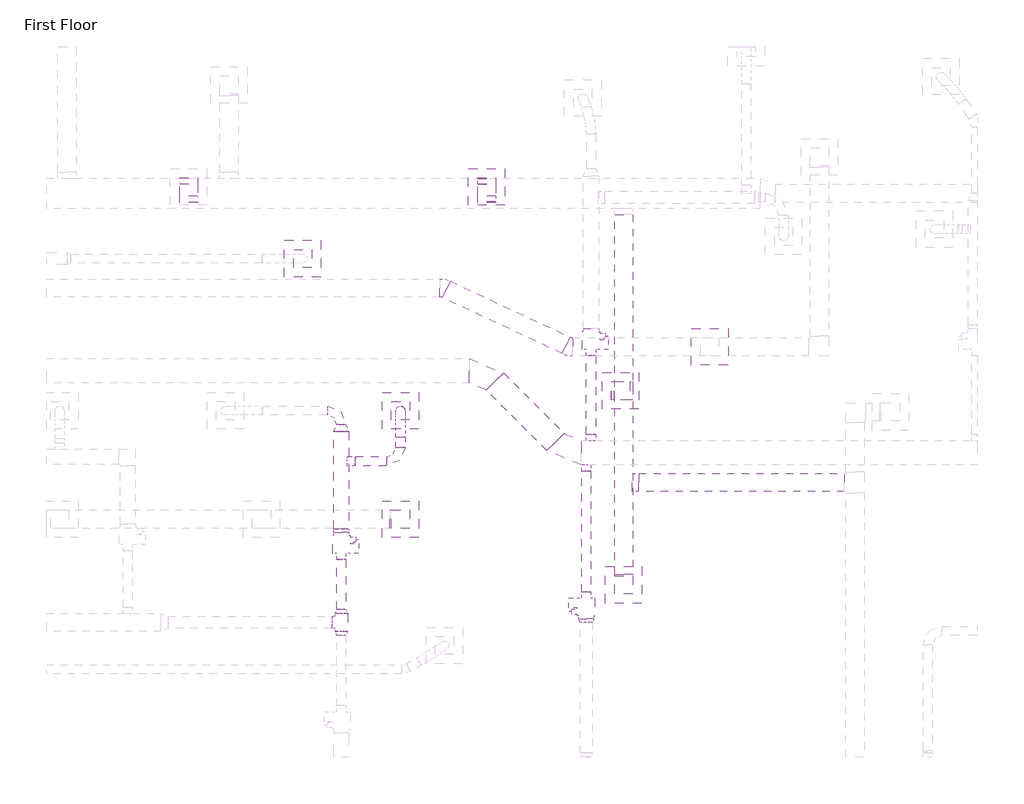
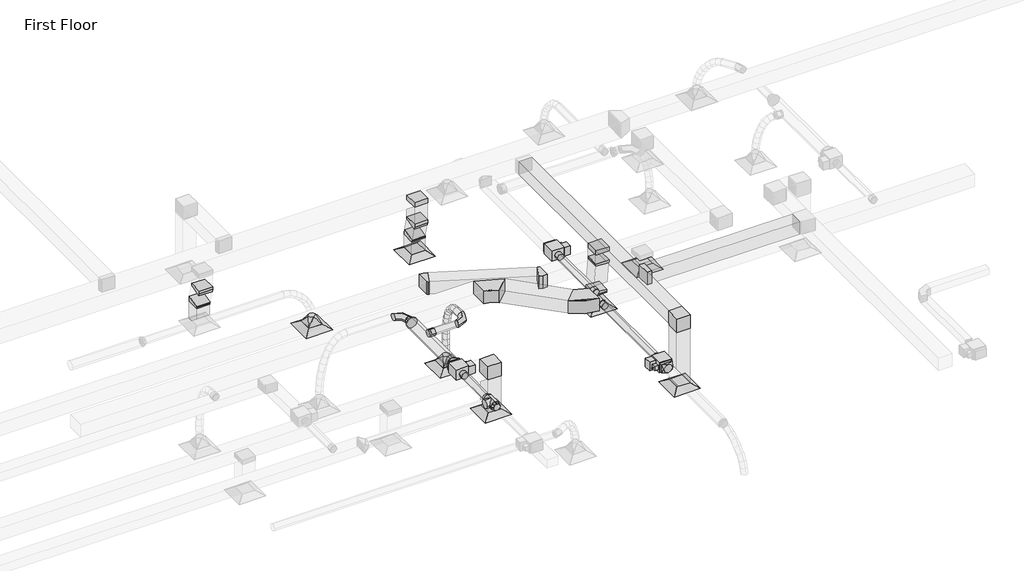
# One storey, part 51 of 61: 29 duct fittings, 20 duct segments, 7 air terminals, 3 proxies.
"""IFC4 building model written with IfcOpenShell, lengths in millimetres."""

from ifc_helpers import new_model, si_unit, point, frame, frame_2d, origin, place, context, project, spatial, polyline, circle_curve, ellipse_curve, trimmed, segment, composite_curve, outline, extrude, transform, mapped, element, save
from ifc_brep_helpers import plane_surface, cylinder_surface, advanced_brep
from components import m_exhaust_grill_er_600_x_600_face_300_x_300_connection_ff221211, m_vav_unit_single_duct_150_mm_ffdab17b, m_rectangular_elbow_mitered_standard_8eee5933, m_rectangular_elbow_mitered_standard_a5cf8a1a, m_rectangular_elbow_mitered_standard_8b9f0058, m_rectangular_elbow_mitered_standard_af8b91c0, m_rectangular_elbow_mitered_standard_bb41a724, m_rectangular_elbow_radius_1_5_w_52539924, m_rectangular_takeoff_standard_c00386d1, m_rectangular_takeoff_standard_b44bfa45, m_rectangular_transition_angle_45_degree_f75a56a8, m_rectangular_to_round_transition_angle_45_degree_8f201c83, m_rectangular_to_round_transition_angle_45_degree_9bcfcd89, m_rectangular_to_round_transition_angle_45_degree_06170b8a, m_round_elbow_1_5_d_2e586196, m_round_takeoff_standard_f2a1d319, m_round_takeoff_standard_f11fae56, m_round_takeoff_standard_af322dea, m_round_tee_standard_d0ec91cd, m_round_transition_angle_45_degree_3fc7b733, m_round_transition_angle_45_degree_6d7b59ce, m_round_transition_angle_45_degree_7615eb52

model = new_model("IFC4")

# Units and contexts
model_context = context("Model", 3, world=origin())
ifc_project = project(units=[si_unit("LENGTHUNIT", "METRE", prefix="MILLI")], contexts=[model_context])

# Site, building, storey
site = spatial("IfcSite", under=ifc_project)
building = spatial("IfcBuilding", under=site)
storey = spatial("IfcBuildingStorey", under=building, Name="First Floor", Elevation=0.0)

# Air terminals
placement = place(None, origin())
m_exhaust_grill_er_600_x_600_face_300_x_300_connection_shape = m_exhaust_grill_er_600_x_600_face_300_x_300_connection_ff221211(model_context)
element("IfcAirTerminal", 1, ObjectType="M_Exhaust Grill : ER-600 x 600 Face 300 x 300 Connection", at=placement, inside=storey, context=model_context, shape_type="MappedRepresentation", body=[
    mapped(m_exhaust_grill_er_600_x_600_face_300_x_300_connection_shape, transform((-17218.5108893, 44694.9781212, 2680.0), x_axis=(1.0, 0.0, 0.0), y_axis=(0.0, 1.0, 0.0), z_axis=(0.0, 0.0, 1.0))),
])
element("IfcAirTerminal", 2, ObjectType="M_Return Register : RR-600 x 600 Face 300 x 300 Connection", at=placement, inside=storey, context=model_context, shape_type="MappedRepresentation", body=[
    mapped(m_exhaust_grill_er_600_x_600_face_300_x_300_connection_shape, transform((-18678.7691949, 43971.972419, 2680.0), x_axis=(1.0, 0.0, 0.0), y_axis=(0.0, 1.0, 0.0), z_axis=(0.0, 0.0, 1.0))),
])
element("IfcAirTerminal", 3, ObjectType="M_Return Register : RR-600 x 600 Face 300 x 300 Connection", at=placement, inside=storey, context=model_context, shape_type="MappedRepresentation", body=[
    mapped(m_exhaust_grill_er_600_x_600_face_300_x_300_connection_shape, transform((-18629.3987258, 40789.3240972, 2680.0), x_axis=(1.0, 0.0, 0.0), y_axis=(0.0, 1.0, 0.0), z_axis=(0.0, 0.0, 1.0))),
])
element("IfcAirTerminal", 4, ObjectType="M_Return Register : RR-600 x 600 Face 300 x 300 Connection", at=placement, inside=storey, context=model_context, shape_type="MappedRepresentation", body=[
    mapped(m_exhaust_grill_er_600_x_600_face_300_x_300_connection_shape, transform((-20874.4935524, 47318.7926945, 2680.0), x_axis=(1.0, 0.0, 0.0), y_axis=(0.0, 1.0, 0.0), z_axis=(0.0, 0.0, 1.0))),
])
element("IfcAirTerminal", 5, ObjectType="M_Return Register : RR-600 x 600 Face 300 x 300 Connection", at=placement, inside=storey, context=model_context, shape_type="MappedRepresentation", body=[
    mapped(m_exhaust_grill_er_600_x_600_face_300_x_300_connection_shape, transform((-22286.4466889, 41867.8999759, 2680.0), x_axis=(1.0, 0.0, 0.0), y_axis=(0.0, 1.0, 0.0), z_axis=(0.0, 0.0, 1.0))),
])
element("IfcAirTerminal", 6, ObjectType="M_Supply Diffuser : SD-600 x 600 Face 300 x 300 Connection", at=placement, inside=storey, context=model_context, shape_type="MappedRepresentation", body=[
    mapped(m_exhaust_grill_er_600_x_600_face_300_x_300_connection_shape, transform((-23890.7706619, 46140.3464892, 2680.0), x_axis=(1.0, 0.0, 0.0), y_axis=(0.0, 1.0, 0.0), z_axis=(0.0, 0.0, 1.0))),
])
element("IfcAirTerminal", 7, ObjectType="M_Supply Diffuser : SD-600 x 600 Face 300 x 300 Connection", at=placement, inside=storey, context=model_context, shape_type="MappedRepresentation", body=[
    mapped(m_exhaust_grill_er_600_x_600_face_300_x_300_connection_shape, transform((-22286.4466889, 43646.5953777, 2680.0), x_axis=(1.0, 0.0, 0.0), y_axis=(0.0, 1.0, 0.0), z_axis=(0.0, 0.0, 1.0))),
])

# Proxies
m_vav_unit_single_duct_150_mm_shape = m_vav_unit_single_duct_150_mm_ffdab17b(model_context)
element("IfcBuildingElementProxy", 8, Name="M_VAV Unit - Single Duct : 150 mm", ObjectType="M_VAV Unit - Single Duct : 150 mm", at=placement, inside=storey, context=model_context, shape_type="MappedRepresentation", body=[
    mapped(m_vav_unit_single_duct_150_mm_shape, transform((-19163.3092474, 44649.2581212, 3550.15), x_axis=(0.0, 1.0000000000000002, 0.0), y_axis=(-1.0000000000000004, 0.0, 0.0), z_axis=(0.0, 0.0, 1.0000000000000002))),
])
element("IfcBuildingElementProxy", 9, Name="M_VAV Unit - Single Duct : 150 mm", ObjectType="M_VAV Unit - Single Duct : 150 mm", at=placement, inside=storey, context=model_context, shape_type="MappedRepresentation", body=[
    mapped(m_vav_unit_single_duct_150_mm_shape, transform((-19243.7025552, 40574.9003018, 3550.1), x_axis=(0.0, -1.0, 0.0), y_axis=(1.0, 0.0, 0.0), z_axis=(0.0, 0.0, 1.0))),
])
element("IfcBuildingElementProxy", 10, Name="M_VAV Unit - Single Duct : 150 mm", ObjectType="M_VAV Unit - Single Duct : 150 mm", at=placement, inside=storey, context=model_context, shape_type="MappedRepresentation", body=[
    mapped(m_vav_unit_single_duct_150_mm_shape, transform((-23256.5951693, 41306.5893825, 4159.975), x_axis=(0.0, 1.0000000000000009, 0.0), y_axis=(-1.0000000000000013, 0.0, 0.0), z_axis=(0.0, 0.0, 1.0000000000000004))),
])

# Duct fittings
m_rectangular_elbow_mitered_standard_shape = m_rectangular_elbow_mitered_standard_8eee5933(model_context)
element("IfcDuctFitting", 11, ObjectType="M_Rectangular Elbow - Mitered : Standard", at=placement, inside=storey, context=model_context, shape_type="MappedRepresentation", body=[
    mapped(m_rectangular_elbow_mitered_standard_shape, transform((-18629.3987258, 40789.3240972, 4259.5), x_axis=(0.0, 0.0, 1.0), y_axis=(0.0, 1.0, 0.0), z_axis=(-1.0, 0.0, 0.0))),
])
element("IfcDuctFitting", 12, ObjectType="M_Rectangular Elbow - Mitered : Standard", at=placement, inside=storey, context=model_context, shape_type="MappedRepresentation", body=[
    mapped(m_rectangular_elbow_mitered_standard_shape, transform((-22286.4466889, 41867.8999759, 3750.0), x_axis=(0.0, 0.0, 1.0), y_axis=(-1.0, 0.0, 0.0), z_axis=(0.0, -1.0, 0.0))),
])
m_rectangular_elbow_mitered_standard_2_shape = m_rectangular_elbow_mitered_standard_a5cf8a1a(model_context)
element("IfcDuctFitting", 13, ObjectType="M_Rectangular Elbow - Mitered : Standard", at=placement, inside=storey, context=model_context, shape_type="MappedRepresentation", body=[
    mapped(m_rectangular_elbow_mitered_standard_2_shape, transform((-18629.3987258, 43971.898194, 3769.5), x_axis=(0.0, 0.0, -1.0), y_axis=(-1.0, 0.0, 0.0), z_axis=(0.0, 1.0, 0.0))),
])
m_rectangular_elbow_mitered_standard_3_shape = m_rectangular_elbow_mitered_standard_8b9f0058(model_context)
element("IfcDuctFitting", 14, ObjectType="M_Rectangular Elbow - Mitered : Standard", at=placement, inside=storey, context=model_context, shape_type="MappedRepresentation", body=[
    mapped(m_rectangular_elbow_mitered_standard_3_shape, transform((-18681.1221366, 43971.898194, 3093.9011628), x_axis=(-0.07633596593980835, 0.0, -0.9970821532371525), y_axis=(0.9970773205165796, 0.0031134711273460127, -0.07633559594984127), z_axis=(0.003104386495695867, -0.9999951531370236, -0.00023766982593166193))),
])
m_rectangular_elbow_mitered_standard_4_shape = m_rectangular_elbow_mitered_standard_af8b91c0(model_context)
element("IfcDuctFitting", 15, ObjectType="M_Rectangular Elbow - Mitered : Standard", at=placement, inside=storey, context=model_context, shape_type="MappedRepresentation", body=[
    mapped(m_rectangular_elbow_mitered_standard_4_shape, transform((-20874.4935524, 47318.7926945, 3128.6517529), x_axis=(0.0, 0.258819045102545, -0.9659258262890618), y_axis=(0.0, -0.9659258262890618, -0.258819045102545), z_axis=(-1.0, 0.0, 0.0))),
])
element("IfcDuctFitting", 16, ObjectType="M_Rectangular Elbow - Mitered : Standard", at=placement, inside=storey, context=model_context, shape_type="MappedRepresentation", body=[
    mapped(m_rectangular_elbow_mitered_standard_4_shape, transform((-20874.4935524, 47211.3321421, 3529.6999944), x_axis=(0.0, -0.2588190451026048, 0.9659258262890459), y_axis=(0.0, 0.9659258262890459, 0.2588190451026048), z_axis=(-1.0, 0.0, 0.0))),
])
element("IfcDuctFitting", 17, ObjectType="M_Rectangular Elbow - Mitered : Standard", at=placement, inside=storey, context=model_context, shape_type="MappedRepresentation", body=[
    mapped(m_rectangular_elbow_mitered_standard_4_shape, transform((-25759.2936376, 47211.3321421, 3639.5), x_axis=(0.0, 0.0, -1.0), y_axis=(0.0, 1.0, 0.0), z_axis=(1.0, 0.0, 0.0))),
])
element("IfcDuctFitting", 18, ObjectType="M_Rectangular Elbow - Mitered : Standard", at=placement, inside=storey, context=model_context, shape_type="MappedRepresentation", body=[
    mapped(m_rectangular_elbow_mitered_standard_4_shape, transform((-25759.2936376, 47318.7926945, 3238.4517586), x_axis=(0.0, 0.25881904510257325, -0.9659258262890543), y_axis=(0.0, -0.9659258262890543, -0.25881904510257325), z_axis=(-1.0, 0.0, 0.0))),
])
m_rectangular_elbow_mitered_standard_5_shape = m_rectangular_elbow_mitered_standard_bb41a724(model_context)
element("IfcDuctFitting", 19, ObjectType="M_Rectangular Elbow - Mitered : Standard", at=placement, inside=storey, context=model_context, shape_type="MappedRepresentation", body=[
    mapped(m_rectangular_elbow_mitered_standard_5_shape, transform((-19520.3756959, 44694.9781212, 3200.0), x_axis=(0.9063077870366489, -0.42261826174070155, 0.0), y_axis=(0.4226182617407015, 0.9063077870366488, 0.0), z_axis=(0.0, 0.0, 0.9999999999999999))),
])
element("IfcDuctFitting", 20, ObjectType="M_Rectangular Elbow - Mitered : Standard", at=placement, inside=storey, context=model_context, shape_type="MappedRepresentation", body=[
    mapped(m_rectangular_elbow_mitered_standard_5_shape, transform((-21586.3948532, 45658.3786762, 3200.0), x_axis=(-0.9063077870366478, 0.4226182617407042, 0.0), y_axis=(-0.4226182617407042, -0.9063077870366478, 0.0), z_axis=(0.0, 0.0, 1.0))),
])
m_rectangular_elbow_radius_1_5_w_shape = m_rectangular_elbow_radius_1_5_w_52539924(model_context)
element("IfcDuctFitting", 21, ObjectType="M_Rectangular Elbow - Radius : 1.5 W", at=placement, inside=storey, context=model_context, shape_type="MappedRepresentation", body=[
    mapped(m_rectangular_elbow_radius_1_5_w_shape, transform((-19570.6141992, 42956.1720978, 3659.6), x_axis=(0.7071067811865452, -0.7071067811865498, 0.0), y_axis=(0.7071067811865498, 0.7071067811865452, 0.0), z_axis=(0.0, 0.0, 1.0))),
])
element("IfcDuctFitting", 22, ObjectType="M_Rectangular Elbow - Radius : 1.5 W", at=placement, inside=storey, context=model_context, shape_type="MappedRepresentation", body=[
    mapped(m_rectangular_elbow_radius_1_5_w_shape, transform((-20914.1170835, 44299.674982, 3659.6), x_axis=(-0.707106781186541, 0.7071067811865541, 0.0), y_axis=(-0.7071067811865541, -0.707106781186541, 0.0), z_axis=(0.0, 0.0, 1.0))),
])
m_rectangular_takeoff_standard_shape = m_rectangular_takeoff_standard_c00386d1(model_context)
element("IfcDuctFitting", 23, ObjectType="M_Rectangular Takeoff : Standard", at=placement, inside=storey, context=model_context, shape_type="MappedRepresentation", body=[
    mapped(m_rectangular_takeoff_standard_shape, transform((-20874.4935524, 47211.3321421, 4084.5), x_axis=(0.0, 0.0, -1.0), y_axis=(-1.0, 0.0, 0.0), z_axis=(0.0, 1.0, 0.0))),
])
m_rectangular_takeoff_standard_2_shape = m_rectangular_takeoff_standard_b44bfa45(model_context)
element("IfcDuctFitting", 24, ObjectType="M_Rectangular Takeoff : Standard", at=placement, inside=storey, context=model_context, shape_type="MappedRepresentation", body=[
    mapped(m_rectangular_takeoff_standard_2_shape, transform((-18629.3987258, 43971.898194, 4109.5), x_axis=(0.0, 0.0, -1.0), y_axis=(0.0, -1.0, 0.0), z_axis=(-1.0, 0.0, 0.0))),
])
element("IfcDuctFitting", 25, ObjectType="M_Rectangular Takeoff : Standard", at=placement, inside=storey, context=model_context, shape_type="MappedRepresentation", body=[
    mapped(m_rectangular_takeoff_standard_2_shape, transform((-18479.3987258, 42467.9736837, 4259.5), x_axis=(1.0, 0.0, 0.0), y_axis=(0.0, -1.0, 0.0), z_axis=(0.0, 0.0, -1.0))),
])
m_rectangular_transition_angle_45_degree_shape = m_rectangular_transition_angle_45_degree_f75a56a8(model_context)
element("IfcDuctFitting", 26, ObjectType="M_Rectangular Transition - Angle : 45 Degree", at=placement, inside=storey, context=model_context, shape_type="MappedRepresentation", body=[
    mapped(m_rectangular_transition_angle_45_degree_shape, transform((-18681.1221366, 43971.9054985, 3063.1675737), x_axis=(0.0, 0.00023767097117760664, -0.9999999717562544), y_axis=(-0.0031043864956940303, 0.9999951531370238, 0.00023766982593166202), z_axis=(0.9999951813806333, 0.0031043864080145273, 7.37822553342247e-07))),
])
m_rectangular_to_round_transition_angle_45_degree_shape = m_rectangular_to_round_transition_angle_45_degree_8f201c83(model_context)
element("IfcDuctFitting", 27, ObjectType="M_Rectangular to Round Transition - Angle : 45 Degree", at=placement, inside=storey, context=model_context, shape_type="MappedRepresentation", body=[
    mapped(m_rectangular_to_round_transition_angle_45_degree_shape, transform((-23890.7706619, 46140.3464892, 2781.6), x_axis=(0.0, 0.0, 1.0), y_axis=(1.0, 0.0, 0.0), z_axis=(0.0, 1.0, 0.0))),
])
element("IfcDuctFitting", 28, ObjectType="M_Rectangular to Round Transition - Angle : 45 Degree", at=placement, inside=storey, context=model_context, shape_type="MappedRepresentation", body=[
    mapped(m_rectangular_to_round_transition_angle_45_degree_shape, transform((-22286.4466889, 43646.5953777, 2781.6), x_axis=(0.0, 0.0, 1.0), y_axis=(1.0, 0.0, 0.0), z_axis=(0.0, 1.0, 0.0))),
])
m_rectangular_to_round_transition_angle_45_degree_2_shape = m_rectangular_to_round_transition_angle_45_degree_9bcfcd89(model_context)
element("IfcDuctFitting", 29, ObjectType="M_Rectangular to Round Transition - Angle : 45 Degree", at=placement, inside=storey, context=model_context, shape_type="MappedRepresentation", body=[
    mapped(m_rectangular_to_round_transition_angle_45_degree_2_shape, transform((-19243.7025552, 40232.1003018, 3669.15), x_axis=(0.0, -1.0, 0.0), y_axis=(1.0, 0.0, 0.0), z_axis=(0.0, 0.0, 1.0))),
])
m_rectangular_to_round_transition_angle_45_degree_3_shape = m_rectangular_to_round_transition_angle_45_degree_06170b8a(model_context)
element("IfcDuctFitting", 30, ObjectType="M_Rectangular to Round Transition - Angle : 45 Degree", at=placement, inside=storey, context=model_context, shape_type="MappedRepresentation", body=[
    mapped(m_rectangular_to_round_transition_angle_45_degree_3_shape, transform((-23256.5951693, 41649.3893825, 4279.025), x_axis=(0.0, 1.0, 0.0), y_axis=(-1.0, 0.0, 0.0), z_axis=(0.0, 0.0, 1.0))),
])
m_round_elbow_1_5_d_shape = m_round_elbow_1_5_d_2e586196(model_context)
element("IfcDuctFitting", 31, ObjectType="M_Round Elbow : 1.5 D", at=placement, inside=storey, context=model_context, shape_type="MappedRepresentation", body=[
    mapped(m_round_elbow_1_5_d_shape, transform((-23256.5951693, 43646.5953777, 4279.0), x_axis=(0.0, 0.9999999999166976, -1.2907551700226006e-05), y_axis=(-1.0000000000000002, 0.0, 0.0), z_axis=(0.0, 1.2907551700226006e-05, 0.9999999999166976))),
])
element("IfcDuctFitting", 32, ObjectType="M_Round Elbow : 1.5 D", at=placement, inside=storey, context=model_context, shape_type="MappedRepresentation", body=[
    mapped(m_round_elbow_1_5_d_shape, transform((-22286.4466889, 42817.6349986, 4279.0), x_axis=(1.0, 0.0, 0.0), y_axis=(0.0, 1.0, 0.0), z_axis=(0.0, 0.0, 1.0))),
])
m_round_takeoff_standard_shape = m_round_takeoff_standard_f2a1d319(model_context)
element("IfcDuctFitting", 33, ObjectType="M_Round Takeoff : Standard", at=placement, inside=storey, context=model_context, shape_type="MappedRepresentation", body=[
    mapped(m_round_takeoff_standard_shape, transform((-19242.8525552, 42756.1720978, 3659.6021933), x_axis=(0.0, -0.9999999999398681, 1.0966490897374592e-05), y_axis=(-1.0000000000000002, 0.0, 0.0), z_axis=(0.0, -1.0966490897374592e-05, -0.9999999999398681))),
])
m_round_takeoff_standard_2_shape = m_round_takeoff_standard_f11fae56(model_context)
element("IfcDuctFitting", 34, ObjectType="M_Round Takeoff : Standard", at=placement, inside=storey, context=model_context, shape_type="MappedRepresentation", body=[
    mapped(m_round_takeoff_standard_2_shape, transform((-19164.1592474, 43156.1720978, 3659.6031417), x_axis=(0.0, 0.9999999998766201, 1.5708589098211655e-05), y_axis=(1.0, 0.0, 0.0), z_axis=(0.0, 1.5708589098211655e-05, -0.9999999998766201))),
])
m_round_takeoff_standard_3_shape = m_round_takeoff_standard_af322dea(model_context)
element("IfcDuctFitting", 35, ObjectType="M_Round Takeoff : Standard", at=placement, inside=storey, context=model_context, shape_type="MappedRepresentation", body=[
    mapped(m_round_takeoff_standard_3_shape, transform((-23131.5951697, 42817.6349986, 4279.0), x_axis=(1.0, 0.0, 0.0), y_axis=(0.0, -1.0, 0.0), z_axis=(0.0, 0.0, -1.0))),
])
m_round_tee_standard_shape = m_round_tee_standard_d0ec91cd(model_context)
element("IfcDuctFitting", 36, ObjectType="M_Round Tee : Standard", at=placement, inside=storey, context=model_context, shape_type="MappedRepresentation", body=[
    mapped(m_round_tee_standard_shape, transform((-23255.7451693, 40172.9559427, 4269.5), x_axis=(0.0, -1.0, 0.0), y_axis=(1.0, 0.0, 0.0), z_axis=(0.0, 0.0, 1.0))),
])
m_round_transition_angle_45_degree_shape = m_round_transition_angle_45_degree_3fc7b733(model_context)
element("IfcDuctFitting", 37, ObjectType="M_Round Transition - Angle : 45 Degree", at=placement, inside=storey, context=model_context, shape_type="MappedRepresentation", body=[
    mapped(m_round_transition_angle_45_degree_shape, transform((-23255.8700404, 40383.3111526, 4269.5), x_axis=(0.002068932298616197, -0.9999978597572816, 0.0), y_axis=(0.9999978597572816, 0.002068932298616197, 0.0), z_axis=(0.0, 0.0, 1.0))),
])
m_round_transition_angle_45_degree_2_shape = m_round_transition_angle_45_degree_6d7b59ce(model_context)
element("IfcDuctFitting", 38, ObjectType="M_Round Transition - Angle : 45 Degree", at=placement, inside=storey, context=model_context, shape_type="MappedRepresentation", body=[
    mapped(m_round_transition_angle_45_degree_2_shape, transform((-23255.7451693, 40022.9559427, 4269.5), x_axis=(0.0, -1.0, 0.0), y_axis=(1.0, 0.0, 0.0), z_axis=(0.0, 0.0, 1.0))),
])
m_round_transition_angle_45_degree_3_shape = m_round_transition_angle_45_degree_7615eb52(model_context)
element("IfcDuctFitting", 39, ObjectType="M_Round Transition - Angle : 45 Degree", at=placement, inside=storey, context=model_context, shape_type="MappedRepresentation", body=[
    mapped(m_round_transition_angle_45_degree_3_shape, transform((-23256.5951693, 43300.8846996, 4279.0044623), x_axis=(0.0, 0.9999999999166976, -1.2907551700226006e-05), y_axis=(-1.0000000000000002, 0.0, 0.0), z_axis=(0.0, 1.2907551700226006e-05, 0.9999999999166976))),
])

# Duct segments
element("IfcDuctSegment", 40, ObjectType="Flex - Round", at=placement, inside=storey, context=model_context, shape_type="AdvancedBrep", body=[
    advanced_brep(
    [(-22361.4466889, 43217.6349986, 4279.0), (-22286.4466889, 43205.6313547, 4204.9668147), (-22211.4466889, 43217.6349986, 4279.0), (-22286.4466889, 43229.6386425, 4353.0331853), (-22361.4466889, 43323.0197593, 4261.9130526), (-22286.4466889, 43297.9832635, 4189.9929968), (-22211.4466889, 43323.0197593, 4261.9130526), (-22286.4466889, 43348.0562551, 4333.8331084), (-22361.4466889, 43646.5953777, 2962.6660172), (-22286.4466889, 43721.595032, 2962.4383222), (-22211.4466889, 43646.5953777, 2962.6660172), (-22286.4466889, 43571.5957233, 2962.8937122), (-22361.4466889, 43409.648797, 4213.5415702), (-22286.4466889, 43362.6887462, 4153.8630778), (-22211.4466889, 43409.648797, 4213.5415702), (-22286.4466889, 43456.6088478, 4273.2200626), (-22361.4466889, 43479.3503888, 4138.2195922), (-22286.4466889, 43418.211135, 4093.8636424), (-22211.4466889, 43479.3503888, 4138.2195922), (-22286.4466889, 43540.4896425, 4182.5755419), (-22361.4466889, 43533.9528118, 4040.2811582), (-22286.4466889, 43465.3905629, 4009.2395722), (-22211.4466889, 43533.9528118, 4040.2811582), (-22286.4466889, 43602.5150606, 4071.3227443), (-22361.4466889, 43575.2843432, 3924.0603078), (-22286.4466889, 43503.1609732, 3903.0323001), (-22211.4466889, 43575.2843432, 3924.0603078), (-22286.4466889, 43647.4077132, 3945.0883155), (-22361.4466889, 43605.1732601, 3793.8910805), (-22286.4466889, 43531.3897589, 3780.0931104), (-22211.4466889, 43605.1732601, 3793.8910805), (-22286.4466889, 43678.9567613, 3807.6890507), (-22361.4466889, 43625.4478397, 3654.1075159), (-22286.4466889, 43550.9113569, 3645.500995), (-22211.4466889, 43625.4478397, 3654.1075159), (-22286.4466889, 43699.9843224, 3662.7140369), (-22361.4466889, 43637.9363591, 3509.0436536), (-22286.4466889, 43563.0802806, 3504.1494851), (-22211.4466889, 43637.9363591, 3509.0436536), (-22286.4466889, 43712.7924375, 3513.937822), (-22361.4466889, 43644.4670954, 3363.0335329), (-22286.4466889, 43569.4953135, 3360.7261903), (-22211.4466889, 43644.4670954, 3363.0335329), (-22286.4466889, 43719.4388774, 3365.3408756), (-22361.4466889, 43646.8683259, 3220.4111936), (-22286.4466889, 43571.8687939, 3219.752081), (-22211.4466889, 43646.8683259, 3220.4111936), (-22286.4466889, 43721.8678579, 3221.0703063), (-22361.4466889, 43646.9683276, 3085.5106752), (-22286.4466889, 43571.9682432, 3085.5967243), (-22211.4466889, 43646.9683276, 3085.5106752), (-22286.4466889, 43721.968412, 3085.4246261)],
    [
        (0, 1, circle_curve(frame((-22286.4466889, 43217.6349986, 4279.0), z_axis=(0.0, -0.987109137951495, 0.1600485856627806), x_axis=(-1.0, 0.0, 0.0)), 75.0)),
        (1, 2, circle_curve(frame((-22286.4466889, 43217.6349986, 4279.0), z_axis=(0.0, -0.987109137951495, 0.1600485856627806), x_axis=(-1.0, 0.0, 0.0)), 75.0)),
        (2, 3, circle_curve(frame((-22286.4466889, 43217.6349986, 4279.0), z_axis=(0.0, -0.987109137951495, 0.1600485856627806), x_axis=(-1.0, 0.0, 0.0)), 75.0)),
        (3, 0, circle_curve(frame((-22286.4466889, 43217.6349986, 4279.0), z_axis=(0.0, -0.987109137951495, 0.1600485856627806), x_axis=(-1.0, 0.0, 0.0)), 75.0)),
        (0, 4),
        (4, 5, ellipse_curve(frame((-22286.4466889, 43323.0197593, 4261.9130526), z_axis=(0.0, -0.9444119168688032, 0.32876455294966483), x_axis=(0.0, -0.32876455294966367, -0.9444119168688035)), 76.1532701, 75.0)),
        (5, 1),
        (5, 6, ellipse_curve(frame((-22286.4466889, 43323.0197593, 4261.9130526), z_axis=(0.0, -0.9444119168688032, 0.32876455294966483), x_axis=(0.0, -0.32876455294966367, -0.9444119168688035)), 76.1532701, 75.0)),
        (6, 2),
        (6, 7, ellipse_curve(frame((-22286.4466889, 43323.0197593, 4261.9130526), z_axis=(0.0, -0.9444119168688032, 0.32876455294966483), x_axis=(0.0, -0.32876455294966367, -0.9444119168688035)), 76.1532701, 75.0)),
        (7, 3),
        (7, 4, ellipse_curve(frame((-22286.4466889, 43323.0197593, 4261.9130526), z_axis=(0.0, -0.9444119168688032, 0.32876455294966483), x_axis=(0.0, -0.32876455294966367, -0.9444119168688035)), 76.1532701, 75.0)),
        (8, 9, circle_curve(frame((-22286.4466889, 43646.5953777, 2962.6660172), z_axis=(0.0, -0.003035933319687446, -0.9999953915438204), x_axis=(-1.0, 0.0, 0.0)), 75.0)),
        (9, 10, circle_curve(frame((-22286.4466889, 43646.5953777, 2962.6660172), z_axis=(0.0, -0.003035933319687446, -0.9999953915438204), x_axis=(-1.0, 0.0, 0.0)), 75.0)),
        (10, 11, circle_curve(frame((-22286.4466889, 43646.5953777, 2962.6660172), z_axis=(0.0, -0.003035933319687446, -0.9999953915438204), x_axis=(-1.0, 0.0, 0.0)), 75.0)),
        (11, 8, circle_curve(frame((-22286.4466889, 43646.5953777, 2962.6660172), z_axis=(0.0, -0.003035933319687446, -0.9999953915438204), x_axis=(-1.0, 0.0, 0.0)), 75.0)),
        (4, 12),
        (12, 13, ellipse_curve(frame((-22286.4466889, 43409.648797, 4213.5415702), z_axis=(0.0, -0.7858715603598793, 0.6183897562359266), x_axis=(0.0, -0.6183897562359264, -0.7858715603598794)), 75.9392443, 75.0)),
        (13, 5),
        (13, 14, ellipse_curve(frame((-22286.4466889, 43409.648797, 4213.5415702), z_axis=(0.0, -0.7858715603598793, 0.6183897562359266), x_axis=(0.0, -0.6183897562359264, -0.7858715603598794)), 75.9392443, 75.0)),
        (14, 6),
        (14, 15, ellipse_curve(frame((-22286.4466889, 43409.648797, 4213.5415702), z_axis=(0.0, -0.7858715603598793, 0.6183897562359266), x_axis=(0.0, -0.6183897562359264, -0.7858715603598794)), 75.9392443, 75.0)),
        (15, 7),
        (15, 12, ellipse_curve(frame((-22286.4466889, 43409.648797, 4213.5415702), z_axis=(0.0, -0.7858715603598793, 0.6183897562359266), x_axis=(0.0, -0.6183897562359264, -0.7858715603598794)), 75.9392443, 75.0)),
        (12, 16),
        (16, 17, ellipse_curve(frame((-22286.4466889, 43479.3503888, 4138.2195922), z_axis=(0.0, -0.5872277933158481, 0.8094217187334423), x_axis=(0.0, -0.809421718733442, -0.5872277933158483)), 75.5344863, 75.0)),
        (17, 13),
        (17, 18, ellipse_curve(frame((-22286.4466889, 43479.3503888, 4138.2195922), z_axis=(0.0, -0.5872277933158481, 0.8094217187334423), x_axis=(0.0, -0.809421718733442, -0.5872277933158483)), 75.5344863, 75.0)),
        (18, 14),
        (18, 19, ellipse_curve(frame((-22286.4466889, 43479.3503888, 4138.2195922), z_axis=(0.0, -0.5872277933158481, 0.8094217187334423), x_axis=(0.0, -0.809421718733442, -0.5872277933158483)), 75.5344863, 75.0)),
        (19, 15),
        (19, 16, ellipse_curve(frame((-22286.4466889, 43479.3503888, 4138.2195922), z_axis=(0.0, -0.5872277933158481, 0.8094217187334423), x_axis=(0.0, -0.809421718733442, -0.5872277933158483)), 75.5344863, 75.0)),
        (16, 20),
        (20, 21, ellipse_curve(frame((-22286.4466889, 43533.9528118, 4040.2811582), z_axis=(0.0, -0.4124472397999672, 0.9109814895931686), x_axis=(0.0, -0.9109814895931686, -0.4124472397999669)), 75.2619561, 75.0)),
        (21, 17),
        (21, 22, ellipse_curve(frame((-22286.4466889, 43533.9528118, 4040.2811582), z_axis=(0.0, -0.4124472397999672, 0.9109814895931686), x_axis=(0.0, -0.9109814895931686, -0.4124472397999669)), 75.2619561, 75.0)),
        (22, 18),
        (22, 23, ellipse_curve(frame((-22286.4466889, 43533.9528118, 4040.2811582), z_axis=(0.0, -0.4124472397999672, 0.9109814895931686), x_axis=(0.0, -0.9109814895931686, -0.4124472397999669)), 75.2619561, 75.0)),
        (23, 19),
        (23, 20, ellipse_curve(frame((-22286.4466889, 43533.9528118, 4040.2811582), z_axis=(0.0, -0.4124472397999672, 0.9109814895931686), x_axis=(0.0, -0.9109814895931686, -0.4124472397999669)), 75.2619561, 75.0)),
        (20, 24),
        (24, 25, ellipse_curve(frame((-22286.4466889, 43575.2843432, 3924.0603078), z_axis=(0.0, -0.2799021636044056, 0.9600285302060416), x_axis=(0.0, -0.9600285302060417, -0.2799021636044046)), 75.1262778, 75.0)),
        (25, 21),
        (25, 26, ellipse_curve(frame((-22286.4466889, 43575.2843432, 3924.0603078), z_axis=(0.0, -0.2799021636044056, 0.9600285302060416), x_axis=(0.0, -0.9600285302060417, -0.2799021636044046)), 75.1262778, 75.0)),
        (26, 22),
        (26, 27, ellipse_curve(frame((-22286.4466889, 43575.2843432, 3924.0603078), z_axis=(0.0, -0.2799021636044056, 0.9600285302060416), x_axis=(0.0, -0.9600285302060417, -0.2799021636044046)), 75.1262778, 75.0)),
        (27, 23),
        (27, 24, ellipse_curve(frame((-22286.4466889, 43575.2843432, 3924.0603078), z_axis=(0.0, -0.2799021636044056, 0.9600285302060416), x_axis=(0.0, -0.9600285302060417, -0.2799021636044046)), 75.1262778, 75.0)),
        (24, 28),
        (28, 29, ellipse_curve(frame((-22286.4466889, 43605.1732601, 3793.8910805), z_axis=(0.0, -0.18381958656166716, 0.9829599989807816), x_axis=(0.0, -0.9829599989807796, -0.18381958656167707)), 75.0625674, 75.0)),
        (29, 25),
        (29, 30, ellipse_curve(frame((-22286.4466889, 43605.1732601, 3793.8910805), z_axis=(0.0, -0.18381958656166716, 0.9829599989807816), x_axis=(0.0, -0.9829599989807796, -0.18381958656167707)), 75.0625674, 75.0)),
        (30, 26),
        (30, 31, ellipse_curve(frame((-22286.4466889, 43605.1732601, 3793.8910805), z_axis=(0.0, -0.18381958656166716, 0.9829599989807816), x_axis=(0.0, -0.9829599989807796, -0.18381958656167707)), 75.0625674, 75.0)),
        (31, 27),
        (31, 28, ellipse_curve(frame((-22286.4466889, 43605.1732601, 3793.8910805), z_axis=(0.0, -0.18381958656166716, 0.9829599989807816), x_axis=(0.0, -0.9829599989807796, -0.18381958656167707)), 75.0625674, 75.0)),
        (28, 32),
        (32, 33, ellipse_curve(frame((-22286.4466889, 43625.4478397, 3654.1075159), z_axis=(0.0, -0.11470509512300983, 0.9933995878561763), x_axis=(0.0, -0.9933995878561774, -0.11470509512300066)), 75.0317231, 75.0)),
        (33, 29),
        (33, 34, ellipse_curve(frame((-22286.4466889, 43625.4478397, 3654.1075159), z_axis=(0.0, -0.11470509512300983, 0.9933995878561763), x_axis=(0.0, -0.9933995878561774, -0.11470509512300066)), 75.0317231, 75.0)),
        (34, 30),
        (34, 35, ellipse_curve(frame((-22286.4466889, 43625.4478397, 3654.1075159), z_axis=(0.0, -0.11470509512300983, 0.9933995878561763), x_axis=(0.0, -0.9933995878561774, -0.11470509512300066)), 75.0317231, 75.0)),
        (35, 31),
        (35, 32, ellipse_curve(frame((-22286.4466889, 43625.4478397, 3654.1075159), z_axis=(0.0, -0.11470509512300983, 0.9933995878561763), x_axis=(0.0, -0.9933995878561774, -0.11470509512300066)), 75.0317231, 75.0)),
        (32, 36),
        (36, 37, ellipse_curve(frame((-22286.4466889, 43637.9363591, 3509.0436536), z_axis=(0.0, -0.06524174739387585, 0.9978694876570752), x_axis=(0.0, -0.9978694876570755, -0.0652417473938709)), 75.0159008, 75.0)),
        (37, 33),
        (37, 38, ellipse_curve(frame((-22286.4466889, 43637.9363591, 3509.0436536), z_axis=(0.0, -0.06524174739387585, 0.9978694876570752), x_axis=(0.0, -0.9978694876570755, -0.0652417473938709)), 75.0159008, 75.0)),
        (38, 34),
        (38, 39, ellipse_curve(frame((-22286.4466889, 43637.9363591, 3509.0436536), z_axis=(0.0, -0.06524174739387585, 0.9978694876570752), x_axis=(0.0, -0.9978694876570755, -0.0652417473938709)), 75.0159008, 75.0)),
        (39, 35),
        (39, 36, ellipse_curve(frame((-22286.4466889, 43637.9363591, 3509.0436536), z_axis=(0.0, -0.06524174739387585, 0.9978694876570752), x_axis=(0.0, -0.9978694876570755, -0.0652417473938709)), 75.0159008, 75.0)),
        (36, 40),
        (40, 41, ellipse_curve(frame((-22286.4466889, 43644.4670954, 3363.0335329), z_axis=(0.0, -0.030761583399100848, 0.9995267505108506), x_axis=(0.0, -0.9995267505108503, -0.03076158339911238)), 75.0072791, 75.0)),
        (41, 37),
        (41, 42, ellipse_curve(frame((-22286.4466889, 43644.4670954, 3363.0335329), z_axis=(0.0, -0.030761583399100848, 0.9995267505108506), x_axis=(0.0, -0.9995267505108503, -0.03076158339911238)), 75.0072791, 75.0)),
        (42, 38),
        (42, 43, ellipse_curve(frame((-22286.4466889, 43644.4670954, 3363.0335329), z_axis=(0.0, -0.030761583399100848, 0.9995267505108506), x_axis=(0.0, -0.9995267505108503, -0.03076158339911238)), 75.0072791, 75.0)),
        (43, 39),
        (43, 40, ellipse_curve(frame((-22286.4466889, 43644.4670954, 3363.0335329), z_axis=(0.0, -0.030761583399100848, 0.9995267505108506), x_axis=(0.0, -0.9995267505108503, -0.03076158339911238)), 75.0072791, 75.0)),
        (40, 44),
        (44, 45, ellipse_curve(frame((-22286.4466889, 43646.8683259, 3220.4111936), z_axis=(0.0, -0.008787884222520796, 0.9999613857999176), x_axis=(-3.882037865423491e-12, -0.9999613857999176, -0.008787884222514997)), 75.0024282, 75.0)),
        (45, 41),
        (45, 46, ellipse_curve(frame((-22286.4466889, 43646.8683259, 3220.4111936), z_axis=(0.0, -0.008787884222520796, 0.9999613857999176), x_axis=(-3.882037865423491e-12, -0.9999613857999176, -0.008787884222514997)), 75.0024282, 75.0)),
        (46, 42),
        (46, 47, ellipse_curve(frame((-22286.4466889, 43646.8683259, 3220.4111936), z_axis=(0.0, -0.008787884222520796, 0.9999613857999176), x_axis=(-3.882037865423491e-12, -0.9999613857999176, -0.008787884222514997)), 75.0024282, 75.0)),
        (47, 43),
        (47, 44, ellipse_curve(frame((-22286.4466889, 43646.8683259, 3220.4111936), z_axis=(0.0, -0.008787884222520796, 0.9999613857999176), x_axis=(-3.882037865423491e-12, -0.9999613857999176, -0.008787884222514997)), 75.0024282, 75.0)),
        (44, 48),
        (48, 49, ellipse_curve(frame((-22286.4466889, 43646.9683276, 3085.5106752), z_axis=(0.0, 0.0011473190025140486, 0.9999993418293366), x_axis=(8.500557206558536e-12, -0.9999993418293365, 0.0011473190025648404)), 75.0001338, 75.0)),
        (49, 45),
        (49, 50, ellipse_curve(frame((-22286.4466889, 43646.9683276, 3085.5106752), z_axis=(0.0, 0.0011473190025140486, 0.9999993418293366), x_axis=(8.500557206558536e-12, -0.9999993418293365, 0.0011473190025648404)), 75.0001338, 75.0)),
        (50, 46),
        (50, 51, ellipse_curve(frame((-22286.4466889, 43646.9683276, 3085.5106752), z_axis=(0.0, 0.0011473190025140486, 0.9999993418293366), x_axis=(8.500557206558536e-12, -0.9999993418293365, 0.0011473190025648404)), 75.0001338, 75.0)),
        (51, 47),
        (51, 48, ellipse_curve(frame((-22286.4466889, 43646.9683276, 3085.5106752), z_axis=(0.0, 0.0011473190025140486, 0.9999993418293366), x_axis=(8.500557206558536e-12, -0.9999993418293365, 0.0011473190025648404)), 75.0001338, 75.0)),
        (48, 8),
        (11, 49),
        (10, 50),
        (9, 51),
    ],
    [
        plane_surface(frame((-22286.4466889, 43229.6386425, 4353.0331853), z_axis=(0.0, -0.9871091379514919, 0.1600485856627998), x_axis=(1.0, 0.0, 0.0))),
        cylinder_surface(frame((-22286.4466889, 43217.6349986, 4279.0), z_axis=(0.0, -0.987109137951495, 0.1600485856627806), x_axis=(-1.0, 0.0, 0.0)), 75.0),
        plane_surface(frame((-22286.4466889, 43721.595032, 2962.4383222), z_axis=(0.0, -0.0030359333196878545, -0.9999953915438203), x_axis=(1.0, 0.0, 0.0))),
        cylinder_surface(frame((-22286.4466889, 43323.0197593, 4261.9130526), z_axis=(0.0, -0.8731102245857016, 0.4875228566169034), x_axis=(-1.0, 0.0, 0.0)), 75.0),
        cylinder_surface(frame((-22286.4466889, 43409.648797, 4213.5415702), z_axis=(0.0, -0.6791930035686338, 0.7339597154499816), x_axis=(-1.0, 0.0, 0.0)), 75.0),
        cylinder_surface(frame((-22286.4466889, 43479.3503888, 4138.2195922), z_axis=(0.0, -0.4869520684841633, 0.8734286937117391), x_axis=(-1.0, 0.0, 0.0)), 75.0),
        cylinder_surface(frame((-22286.4466889, 43533.9528118, 4040.2811582), z_axis=(0.0, -0.3350712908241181, 0.9421927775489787), x_axis=(-1.0, 0.0, 0.0)), 75.0),
        cylinder_surface(frame((-22286.4466889, 43575.2843432, 3924.0603078), z_axis=(0.0, -0.2237920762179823, 0.9746369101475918), x_axis=(-1.0, 0.0, 0.0)), 75.0),
        cylinder_surface(frame((-22286.4466889, 43605.1732601, 3793.8910805), z_axis=(0.0, -0.14354065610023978, 0.9896444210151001), x_axis=(-1.0, 0.0, 0.0)), 75.0),
        cylinder_surface(frame((-22286.4466889, 43625.4478397, 3654.1075159), z_axis=(0.0, -0.08577254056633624, 0.9963147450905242), x_axis=(-1.0, 0.0, 0.0)), 75.0),
        cylinder_surface(frame((-22286.4466889, 43637.9363591, 3509.0436536), z_axis=(0.0, -0.044683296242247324, 0.999001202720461), x_axis=(-1.0, 0.0, 0.0)), 75.0),
        cylinder_surface(frame((-22286.4466889, 43644.4670954, 3363.0335329), z_axis=(0.0, -0.01683390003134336, 0.9998582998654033), x_axis=(-1.0, 0.0, 0.0)), 75.0),
        cylinder_surface(frame((-22286.4466889, 43646.8683259, 3220.4111936), z_axis=(0.0, -0.0007412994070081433, 0.999999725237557), x_axis=(-1.0, 0.0, 0.0)), 75.0),
        cylinder_surface(frame((-22286.4466889, 43646.9683276, 3085.5106752), z_axis=(0.0, 0.003035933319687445, 0.9999953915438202), x_axis=(-1.0, 0.0, 0.0)), 75.0),
    ],
    [
        (0, [[1, 2, 3, 4]]),
        (1, [[-1, 5, 6, 7]]),
        (1, [[-2, -7, 8, 9]]),
        (1, [[-3, -9, 10, 11]]),
        (1, [[-4, -11, 12, -5]]),
        (2, [[13, 14, 15, 16]]),
        (3, [[-6, 17, 18, 19]]),
        (3, [[-8, -19, 20, 21]]),
        (3, [[-10, -21, 22, 23]]),
        (3, [[-12, -23, 24, -17]]),
        (4, [[-18, 25, 26, 27]]),
        (4, [[-20, -27, 28, 29]]),
        (4, [[-22, -29, 30, 31]]),
        (4, [[-24, -31, 32, -25]]),
        (5, [[-26, 33, 34, 35]]),
        (5, [[-28, -35, 36, 37]]),
        (5, [[-30, -37, 38, 39]]),
        (5, [[-32, -39, 40, -33]]),
        (6, [[-34, 41, 42, 43]]),
        (6, [[-36, -43, 44, 45]]),
        (6, [[-38, -45, 46, 47]]),
        (6, [[-40, -47, 48, -41]]),
        (7, [[-42, 49, 50, 51]]),
        (7, [[-44, -51, 52, 53]]),
        (7, [[-46, -53, 54, 55]]),
        (7, [[-48, -55, 56, -49]]),
        (8, [[-50, 57, 58, 59]]),
        (8, [[-52, -59, 60, 61]]),
        (8, [[-54, -61, 62, 63]]),
        (8, [[-56, -63, 64, -57]]),
        (9, [[-58, 65, 66, 67]]),
        (9, [[-60, -67, 68, 69]]),
        (9, [[-62, -69, 70, 71]]),
        (9, [[-64, -71, 72, -65]]),
        (10, [[-66, 73, 74, 75]]),
        (10, [[-68, -75, 76, 77]]),
        (10, [[-70, -77, 78, 79]]),
        (10, [[-72, -79, 80, -73]]),
        (11, [[-74, 81, 82, 83]]),
        (11, [[-76, -83, 84, 85]]),
        (11, [[-78, -85, 86, 87]]),
        (11, [[-80, -87, 88, -81]]),
        (12, [[-82, 89, 90, 91]]),
        (12, [[-84, -91, 92, 93]]),
        (12, [[-86, -93, 94, 95]]),
        (12, [[-88, -95, 96, -89]]),
        (13, [[-90, 97, -16, 98]]),
        (13, [[-92, -98, -15, 99]]),
        (13, [[-94, -99, -14, 100]]),
        (13, [[-96, -100, -13, -97]]),
    ],
),
])
element("IfcDuctSegment", 41, ObjectType="Mitered Elbows / Taps", at=placement, inside=storey, context=model_context, shape_type="SweptSolid", body=[
    extrude(outline(polyline([(-18479.3987258, 40964.3240972), (-18779.3987258, 40964.3240972), (-18779.3987258, 46861.3321421), (-18479.3987258, 46861.3321421), (-18479.3987258, 40964.3240972)])), frame((0.0, 0.0, 4109.5), z_axis=(0.0, 0.0, 1.0), x_axis=(1.0, 0.0, 0.0)), (0.0, 0.0, 1.0), 300.0),
])
element("IfcDuctSegment", 42, ObjectType="Mitered Elbows / Taps", at=placement, inside=storey, context=model_context, shape_type="SweptSolid", body=[
    extrude(outline(polyline([(-18779.3987258, 40939.3240972), (-18479.3987258, 40939.3240972), (-18479.3987258, 40639.3240972), (-18779.3987258, 40639.3240972), (-18779.3987258, 40939.3240972)])), frame((0.0, 0.0, 2781.6), z_axis=(0.0, 0.0, 1.0), x_axis=(1.0, 0.0, 0.0)), (0.0, 0.0, 1.0), 1302.9),
])
element("IfcDuctSegment", 43, ObjectType="Mitered Elbows / Taps", at=placement, inside=storey, context=model_context, shape_type="SweptSolid", body=[
    extrude(outline(polyline([(-18479.3987258, 43821.898194), (-18779.3987258, 43821.898194), (-18779.3987258, 44121.898194), (-18479.3987258, 44121.898194), (-18479.3987258, 43821.898194)])), frame((0.0, 0.0, 3800.2335623), z_axis=(0.0, 0.0, 1.0), x_axis=(1.0, 0.0, 0.0)), (0.0, 0.0, 1.0), 209.2664377),
])
element("IfcDuctSegment", 44, ObjectType="Mitered Elbows / Taps", at=placement, inside=storey, context=model_context, shape_type="SweptSolid", body=[
    extrude(outline(polyline([(150.0, -362.1320344), (-150.0, -362.1320344), (-150.0, -62.1320344), (150.0, -62.1320344), (150.0, -362.1320344)])), frame((-18678.7760583, 44184.0302284, 3124.5450768), z_axis=(0.0763359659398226, 0.0, 0.9970821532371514), x_axis=(0.9970821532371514, 0.0, -0.0763359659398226)), (0.0, 0.0, 1.0), 616.1087476),
])
element("IfcDuctSegment", 45, ObjectType="Mitered Elbows / Taps", at=placement, inside=storey, context=model_context, shape_type="SweptSolid", body=[
    extrude(outline(polyline([(-150.0, 62.1320344), (-150.0, 362.1320343), (150.0, 362.1320343), (150.0, 62.1320344), (-150.0, 62.1320344)])), frame((-18678.7691949, 43759.8403906, 2781.5495824), z_axis=(0.0, -0.0002376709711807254, 0.9999999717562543), x_axis=(1.0, 0.0, 0.0)), (0.0, 0.0, 1.0), 256.1675816),
])
element("IfcDuctSegment", 46, ObjectType="Mitered Elbows / Taps", at=placement, inside=storey, context=model_context, shape_type="SweptSolid", body=[
    extrude(outline(polyline([(-18379.3987258, 42317.9736837), (-18379.3987258, 42617.9736837), (-15009.8231147, 42617.9736837), (-15009.8231147, 42317.9736837), (-18379.3987258, 42317.9736837)])), frame((0.0, 0.0, 4109.5), z_axis=(0.0, 0.0, 1.0), x_axis=(1.0, 0.0, 0.0)), (0.0, 0.0, 1.0), 300.0),
])
element("IfcDuctSegment", 47, ObjectType="Mitered Elbows / Taps", at=placement, inside=storey, context=model_context, shape_type="SweptSolid", body=[
    extrude(outline(polyline([(150.0, -62.1320343), (150.0, -362.1320343), (-150.0, -362.1320343), (-150.0, -62.1320343), (150.0, -62.1320343)])), frame((-20874.4935524, 47512.1149029, 3226.7786913), z_axis=(0.0, -0.2588190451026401, 0.9659258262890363), x_axis=(1.0, 0.0, 0.0)), (0.0, 0.0, 1.0), 325.6999423),
])
element("IfcDuctSegment", 48, ObjectType="Mitered Elbows / Taps", at=placement, inside=storey, context=model_context, shape_type="SweptSolid", body=[
    extrude(outline(polyline([(-21024.4935524, 47468.7926945), (-20724.4935524, 47468.7926945), (-20724.4935524, 47168.7926945), (-21024.4935524, 47168.7926945), (-21024.4935524, 47468.7926945)])), frame((0.0, 0.0, 2781.6), z_axis=(0.0, 0.0, 1.0), x_axis=(1.0, 0.0, 0.0)), (0.0, 0.0, 1.0), 302.3038783),
])
element("IfcDuctSegment", 49, ObjectType="Mitered Elbows / Taps", at=placement, inside=storey, context=model_context, shape_type="SweptSolid", body=[
    extrude(outline(polyline([(-20724.4935524, 47061.3321421), (-21024.4935524, 47061.3321421), (-21024.4935524, 47361.3321421), (-20724.4935524, 47361.3321421), (-20724.4935524, 47061.3321421)])), frame((0.0, 0.0, 3574.447869), z_axis=(0.0, 0.0, 1.0), x_axis=(1.0, 0.0, 0.0)), (0.0, 0.0, 1.0), 410.052131),
])
element("IfcDuctSegment", 50, ObjectType="Mitered Elbows / Taps", at=placement, inside=storey, context=model_context, shape_type="SweptSolid", body=[
    extrude(outline(polyline([(-25609.2936376, 47468.7926945), (-25609.2936376, 47168.7926945), (-25909.2936376, 47168.7926945), (-25909.2936376, 47468.7926945), (-25609.2936376, 47468.7926945)])), frame((0.0, 0.0, 2781.6), z_axis=(0.0, 0.0, 1.0), x_axis=(1.0, 0.0, 0.0)), (0.0, 0.0, 1.0), 412.1038839),
])
element("IfcDuctSegment", 51, ObjectType="Mitered Elbows / Taps", at=placement, inside=storey, context=model_context, shape_type="SweptSolid", body=[
    extrude(outline(polyline([(-22436.4466889, 41717.8999759), (-22436.4466889, 42017.8999759), (-22136.4466889, 42017.8999759), (-22136.4466889, 41717.8999759), (-22436.4466889, 41717.8999759)])), frame((0.0, 0.0, 2781.6), z_axis=(0.0, 0.0, 1.0), x_axis=(1.0, 0.0, 0.0)), (0.0, 0.0, 1.0), 793.4),
])
element("IfcDuctSegment", 52, ObjectType="Mitered Elbows / Taps", at=placement, inside=storey, context=model_context, shape_type="SweptSolid", body=[
    extrude(outline(polyline([(-19509.7791912, 44855.5435778), (-19636.5646697, 44583.6512417), (-21596.9913579, 45497.8132196), (-21470.2058794, 45769.7055557), (-19509.7791912, 44855.5435778)])), frame((0.0, 0.0, 3050.0), z_axis=(0.0, 0.0, 1.0), x_axis=(1.0, 0.0, 0.0)), (0.0, 0.0, 1.0), 300.0),
])
element("IfcDuctSegment", 53, ObjectType="Radius Elbows / Taps", at=placement, inside=storey, context=model_context, shape_type="SweptSolid", body=[
    extrude(outline(polyline([(-19604.9287743, 43273.3293853), (-19887.7714868, 42990.4866728), (-20879.8025084, 43982.5176945), (-20596.959796, 44265.360407), (-19604.9287743, 43273.3293853)])), frame((0.0, 0.0, 3509.6), z_axis=(0.0, 0.0, 1.0), x_axis=(1.0, 0.0, 0.0)), (0.0, 0.0, 1.0), 300.0),
])
element("IfcDuctSegment", 54, ObjectType="Taps", at=placement, inside=storey, context=model_context, shape_type="SweptSolid", body=[
    extrude(outline(composite_curve([segment(trimmed(circle_curve(frame_2d((0.0, 75.0)), 75.0), [point((0.0, 150.0))], [point((75.0, 75.0))], False, "CARTESIAN"), True, "CONTINUOUS"), segment(trimmed(circle_curve(frame_2d((0.0, 75.0)), 75.0), [point((75.0, 75.0))], [point((0.0, 0.0))], False, "CARTESIAN"), True, "CONTINUOUS"), segment(trimmed(circle_curve(frame_2d((0.0, 75.0)), 75.0), [point((0.0, 0.0))], [point((-75.0, 75.0))], False, "CARTESIAN"), True, "CONTINUOUS"), segment(trimmed(circle_curve(frame_2d((0.0, 75.0)), 75.0), [point((-75.0, 75.0))], [point((0.0, 150.0))], False, "CARTESIAN"), True, "CONTINUOUS")], self_intersect=False)), frame((-19239.1592474, 43257.3532135, 3659.6047311), z_axis=(0.0, 0.9999999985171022, 5.445911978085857e-05), x_axis=(0.0, -5.445911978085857e-05, 0.9999999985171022)), (0.0, 0.0, 1.0), 1290.3049096),
])
element("IfcDuctSegment", 55, ObjectType="Taps", at=placement, inside=storey, context=model_context, shape_type="SweptSolid", body=[
    extrude(outline(composite_curve([segment(trimmed(circle_curve(frame_2d((0.0, 75.0)), 75.0), [point((0.0, 0.0))], [point((-75.0, 75.0))], False, "CARTESIAN"), True, "CONTINUOUS"), segment(trimmed(circle_curve(frame_2d((0.0, 75.0)), 75.0), [point((-75.0, 75.0))], [point((0.0, 150.0))], False, "CARTESIAN"), True, "CONTINUOUS"), segment(trimmed(circle_curve(frame_2d((0.0, 75.0)), 75.0), [point((0.0, 150.0))], [point((75.0, 75.0))], False, "CARTESIAN"), True, "CONTINUOUS"), segment(trimmed(circle_curve(frame_2d((0.0, 75.0)), 75.0), [point((75.0, 75.0))], [point((0.0, 0.0))], False, "CARTESIAN"), True, "CONTINUOUS")], self_intersect=False)), frame((-19317.8525552, 42656.1712753, 3659.60329), z_axis=(0.0, -0.9999999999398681, 1.0966490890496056e-05), x_axis=(0.0, -1.0966490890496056e-05, -0.9999999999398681)), (0.0, 0.0, 1.0), 1979.6709736),
])
element("IfcDuctSegment", 56, ObjectType="Taps", at=placement, inside=storey, context=model_context, shape_type="SweptSolid", body=[
    extrude(outline(composite_curve([segment(trimmed(circle_curve(frame_2d((0.0, -125.0)), 125.0), [point((0.0, -250.0))], [point((-125.0, -125.0))], False, "CARTESIAN"), True, "CONTINUOUS"), segment(trimmed(circle_curve(frame_2d((0.0, -125.0)), 125.0), [point((-125.0, -125.0))], [point((0.0, 0.0))], False, "CARTESIAN"), True, "CONTINUOUS"), segment(trimmed(circle_curve(frame_2d((0.0, -125.0)), 125.0), [point((0.0, 0.0))], [point((125.0, -125.0))], False, "CARTESIAN"), True, "CONTINUOUS"), segment(trimmed(circle_curve(frame_2d((0.0, -125.0)), 125.0), [point((125.0, -125.0))], [point((0.0, -250.0))], False, "CARTESIAN"), True, "CONTINUOUS")], self_intersect=False)), frame((-23381.5951693, 43300.8846996, 4279.0044623), z_axis=(0.0, -0.9999999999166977, 1.290755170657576e-05), x_axis=(0.0, 1.2907551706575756e-05, 0.9999999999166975)), (0.0, 0.0, 1.0), 1591.1399782),
])
element("IfcDuctSegment", 57, ObjectType="Taps", at=placement, inside=storey, context=model_context, shape_type="SweptSolid", body=[
    extrude(outline(composite_curve([segment(trimmed(circle_curve(frame_2d((42817.6349986, 4279.0)), 75.0), [point((42742.6349986, 4279.0))], [point((42817.6349986, 4354.0))], False, "CARTESIAN"), True, "CONTINUOUS"), segment(trimmed(circle_curve(frame_2d((42817.6349986, 4279.0)), 75.0), [point((42817.6349986, 4354.0))], [point((42892.6349986, 4279.0))], False, "CARTESIAN"), True, "CONTINUOUS"), segment(trimmed(circle_curve(frame_2d((42817.6349986, 4279.0)), 75.0), [point((42892.6349986, 4279.0))], [point((42817.6349986, 4204.0))], False, "CARTESIAN"), True, "CONTINUOUS"), segment(trimmed(circle_curve(frame_2d((42817.6349986, 4279.0)), 75.0), [point((42817.6349986, 4204.0))], [point((42742.6349986, 4279.0))], False, "CARTESIAN"), True, "CONTINUOUS")], self_intersect=False)), frame((-23031.5951697, 0.0, 0.0), z_axis=(1.0, 0.0, 0.0), x_axis=(0.0, 1.0, 0.0)), (0.0, 0.0, 1.0), 520.1484808),
])
element("IfcDuctSegment", 58, ObjectType="Taps", at=placement, inside=storey, context=model_context, shape_type="SweptSolid", body=[
    extrude(outline(composite_curve([segment(trimmed(circle_curve(frame_2d((4279.0, -22286.4466889)), 75.0), [point((4279.0, -22211.4466889))], [point((4354.0, -22286.4466889))], False, "CARTESIAN"), True, "CONTINUOUS"), segment(trimmed(circle_curve(frame_2d((4279.0, -22286.4466889)), 75.0), [point((4354.0, -22286.4466889))], [point((4279.0, -22361.4466889))], False, "CARTESIAN"), True, "CONTINUOUS"), segment(trimmed(circle_curve(frame_2d((4279.0, -22286.4466889)), 75.0), [point((4279.0, -22361.4466889))], [point((4204.0, -22286.4466889))], False, "CARTESIAN"), True, "CONTINUOUS"), segment(trimmed(circle_curve(frame_2d((4279.0, -22286.4466889)), 75.0), [point((4204.0, -22286.4466889))], [point((4279.0, -22211.4466889))], False, "CARTESIAN"), True, "CONTINUOUS")], self_intersect=False)), frame((0.0, 43042.6349986, 0.0), z_axis=(0.0, 1.0, 0.0), x_axis=(0.0, 0.0, 1.0)), (0.0, 0.0, 1.0), 175.0),
])
element("IfcDuctSegment", 59, ObjectType="Tees", at=placement, inside=storey, context=model_context, shape_type="SweptSolid", body=[
    extrude(outline(composite_curve([segment(trimmed(circle_curve(frame_2d((0.0, -75.0)), 75.0), [point((-75.0, -75.0))], [point((0.0, 0.0))], False, "CARTESIAN"), True, "CONTINUOUS"), segment(trimmed(circle_curve(frame_2d((0.0, -75.0)), 75.0), [point((0.0, 0.0))], [point((75.0, -75.0))], False, "CARTESIAN"), True, "CONTINUOUS"), segment(trimmed(circle_curve(frame_2d((0.0, -75.0)), 75.0), [point((75.0, -75.0))], [point((0.0, -150.0))], False, "CARTESIAN"), True, "CONTINUOUS"), segment(trimmed(circle_curve(frame_2d((0.0, -75.0)), 75.0), [point((0.0, -150.0))], [point((-75.0, -75.0))], False, "CARTESIAN"), True, "CONTINUOUS")], self_intersect=False)), frame((-23255.8700404, 40383.3111526, 4194.5), z_axis=(-0.001916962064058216, 0.9999981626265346, 0.0), x_axis=(0.9999981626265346, 0.001916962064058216, 0.0)), (0.0, 0.0, 1.0), 821.6797396),
])

save(model, "model.ifc")
